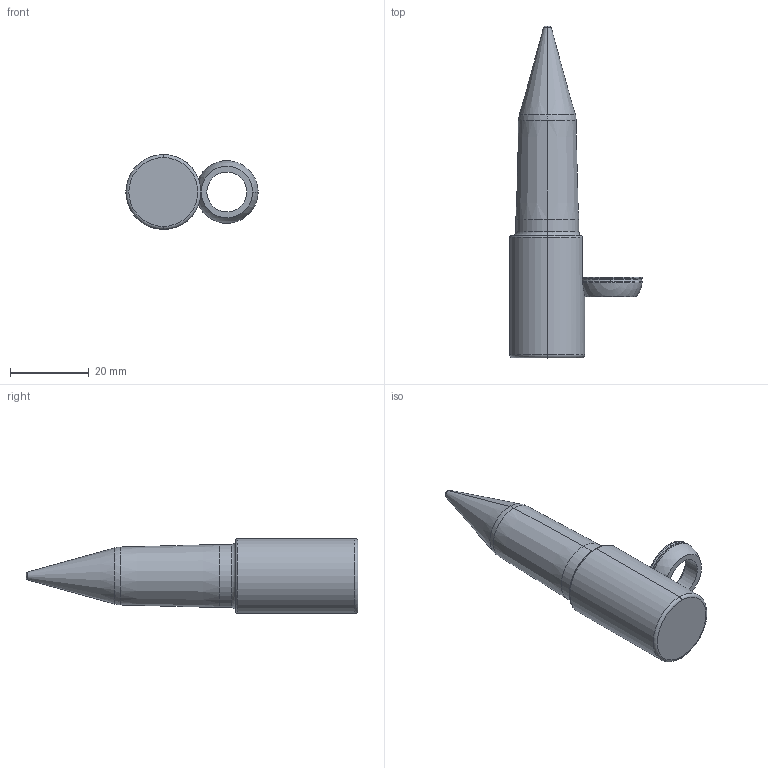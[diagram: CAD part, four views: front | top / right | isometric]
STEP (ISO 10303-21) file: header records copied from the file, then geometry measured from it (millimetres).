
FILE_DESCRIPTION (( 'STEP AP214' ), '1' );
FILE_NAME ('PA-T-16mm-3.2mm-25mm-3-A-F1.STEP', '2019-05-08T18:07:31', ( '' ), ( '' ), 'SwSTEP 2.0', 'SolidWorks 2017', '' );
FILE_SCHEMA (( 'AUTOMOTIVE_DESIGN' ));
Length unit declared in the file: inch
Products named in the file (3): SLPilot-PA-T-M_PA-T-16-3.2-25-3-A-F1; SLRadiusWasher_RadiusWasher-M; PA-T-16mm-3.2mm-25mm-3-A-F1
Assembly tree (2 placements, depth 2):
  PA-T-16mm-3.2mm-25mm-3-A-F1
    SLRadiusWasher_RadiusWasher-M
    SLPilot-PA-T-M_PA-T-16-3.2-25-3-A-F1
Bounding box: 33.54 x 84.18 x 19 mm (x, y, z)
Volume: 16253.4 mm3; surface area: 4804.7 mm2
Topology: 2 solids, 2 shells, 41 faces, 89 edges, 52 vertices
Faces by surface type: torus 15, cylinder 11, cone 6, plane 5, sphere 4
Entity records: 1316 total; most frequent: CARTESIAN_POINT 252, DIRECTION 242, ORIENTED_EDGE 178, AXIS2_PLACEMENT_3D 112, EDGE_CURVE 89, CIRCLE 66, VERTEX_POINT 52, EDGE_LOOP 43
